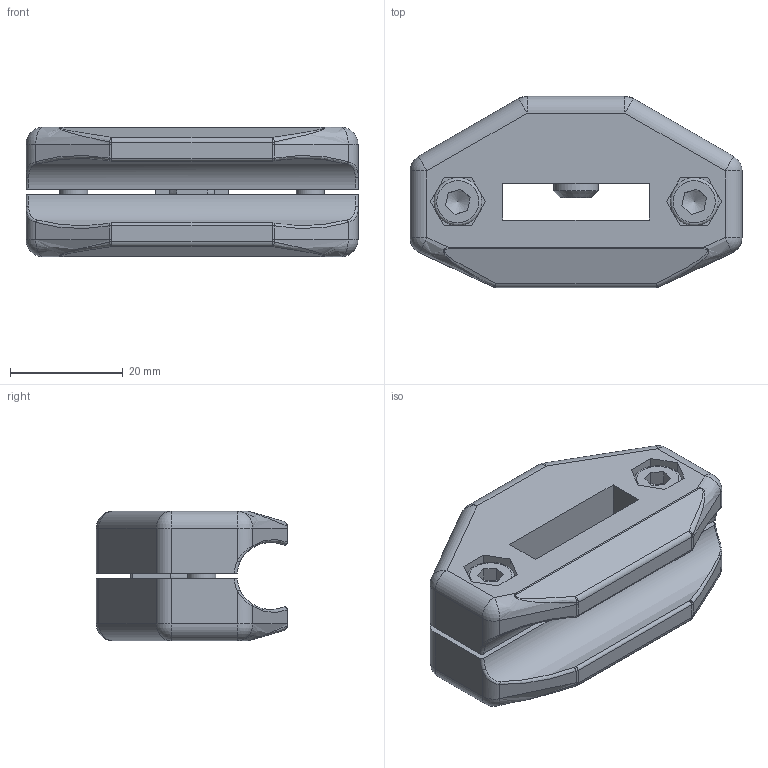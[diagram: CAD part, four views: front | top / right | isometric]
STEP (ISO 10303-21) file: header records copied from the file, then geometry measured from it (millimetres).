
FILE_DESCRIPTION((''),'2;1');
FILE_NAME('C:\Vault Klient\Projekt\Step\300-1045.stp','2009-12-04T10:29:52',('Mathias'),(''),'Autodesk Inventor 2010','Autodesk Inventor 2010','');
FILE_SCHEMA(('CONFIG_CONTROL_DESIGN'));
Length unit declared in the file: millimetre
Products named in the file (1): 300-1045
Bounding box: 59 x 34 x 23 mm (x, y, z)
Volume: 26132.1 mm3; surface area: 13772.2 mm2
Topology: 1 solids, 1 shells, 281 faces, 713 edges, 440 vertices
Faces by surface type: plane 142, cylinder 67, cone 26, bspline 26, sphere 16, torus 4
Full cylindrical faces by diameter (mm): 5 x4, 5.5 x4, 8 x1
Entity records: 9026 total; most frequent: CARTESIAN_POINT 2367, ORIENTED_EDGE 1320, DIRECTION 1286, EDGE_CURVE 660, AXIS2_PLACEMENT_3D 462, VERTEX_POINT 422, VECTOR 362, LINE 362
